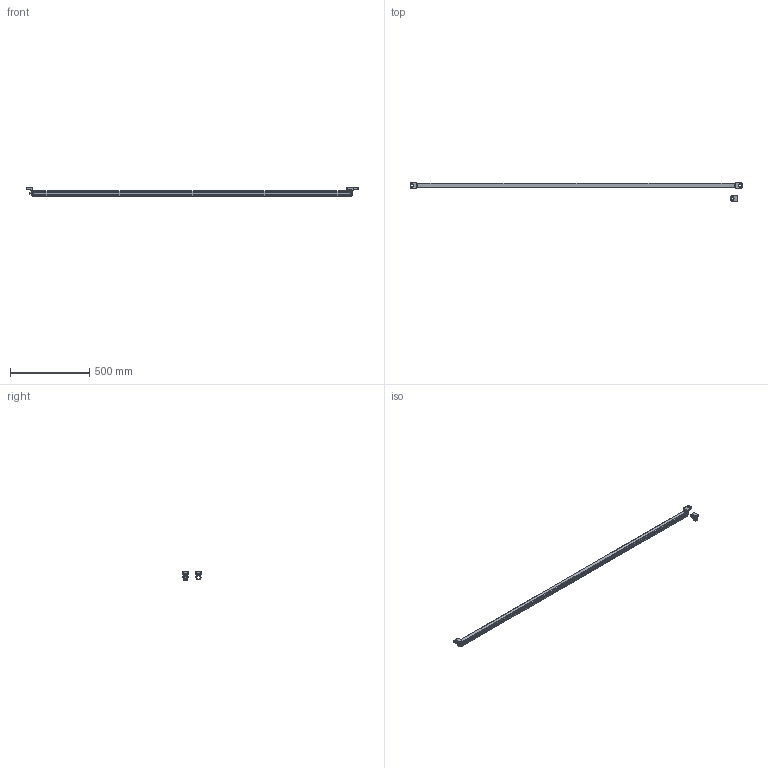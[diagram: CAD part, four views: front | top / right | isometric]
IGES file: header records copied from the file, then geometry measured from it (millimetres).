
Global section: file name: M:\acadjob\SOLID-2\DXF-IGES-Geräte-Daten für Kunden\IGES\Solid_1950.igs; native system: AutoCAD-15.05s (LMS Tech) (Microsoft Windows NT Version 5.1 (x86)); preprocessor: Autodesk IGES Translator R2000i (Jul 31 2000) from Autodesk, Inc.; date: 20070306.151922; units: millimetre
Bounding box: 2089.97 x 115.8 x 51.28 mm (x, y, z)
Surface area: 402096.7 mm2 (no closed solid volume)
Topology: 0 solids, 0 shells, 230 faces, 5800 edges, 5800 vertices
Faces by surface type: bspline 230
